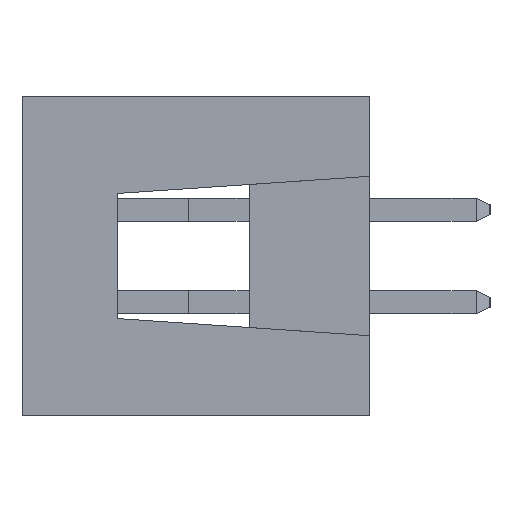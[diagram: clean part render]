
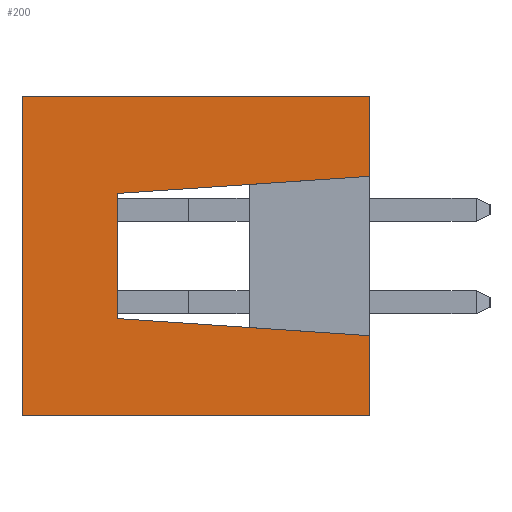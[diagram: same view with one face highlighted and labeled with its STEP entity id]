
A CAD part, left-side view. The second image highlights one B-rep face of the part: STEP entity #200.
In plain terms, the highlighted planar face has unit normal (-1, 0, 0).
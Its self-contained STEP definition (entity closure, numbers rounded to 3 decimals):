
#177 = CARTESIAN_POINT ( 'NONE',  ( -13.843, 9.525, 4.381 ) ) ;
#200 = ADVANCED_FACE ( 'NONE', ( #3579 ), #2412, .F. ) ;
#341 = ORIENTED_EDGE ( 'NONE', *, *, #3615, .F. ) ;
#731 = VECTOR ( 'NONE', #9970, 1000. ) ;
#1363 = DIRECTION ( 'NONE',  ( 0., -1., 0. ) ) ;
#2165 = CARTESIAN_POINT ( 'NONE',  ( -13.843, 0., 4.381 ) ) ;
#2198 = VERTEX_POINT ( 'NONE', #11802 ) ;
#2412 = PLANE ( 'NONE',  #3275 ) ;
#2467 = DIRECTION ( 'NONE',  ( 0., -0.998, -0.068 ) ) ;
#2509 = VERTEX_POINT ( 'NONE', #12281 ) ;
#2994 = CARTESIAN_POINT ( 'NONE',  ( -13.843, 9.525, -4.381 ) ) ;
#3126 = ORIENTED_EDGE ( 'NONE', *, *, #7719, .T. ) ;
#3274 = EDGE_CURVE ( 'NONE', #9021, #2198, #4803, .T. ) ;
#3275 = AXIS2_PLACEMENT_3D ( 'NONE', #14048, #11560, #8856 ) ;
#3579 = FACE_OUTER_BOUND ( 'NONE', #6775, .T. ) ;
#3615 = EDGE_CURVE ( 'NONE', #15794, #12529, #13261, .T. ) ;
#3977 = ORIENTED_EDGE ( 'NONE', *, *, #15456, .T. ) ;
#4408 = VECTOR ( 'NONE', #12532, 1000. ) ;
#4803 = LINE ( 'NONE', #9048, #12462 ) ;
#4827 = VERTEX_POINT ( 'NONE', #2994 ) ;
#5378 = EDGE_CURVE ( 'NONE', #4827, #11291, #8305, .T. ) ;
#5745 = LINE ( 'NONE', #8270, #6979 ) ;
#6042 = ORIENTED_EDGE ( 'NONE', *, *, #12193, .F. ) ;
#6091 = ORIENTED_EDGE ( 'NONE', *, *, #5378, .T. ) ;
#6168 = ORIENTED_EDGE ( 'NONE', *, *, #10776, .F. ) ;
#6179 = CARTESIAN_POINT ( 'NONE',  ( -13.843, 0., -4.381 ) ) ;
#6614 = LINE ( 'NONE', #2165, #4408 ) ;
#6775 = EDGE_LOOP ( 'NONE', ( #3977, #10786, #341, #6042, #3126, #11982, #6168, #6091 ) ) ;
#6979 = VECTOR ( 'NONE', #13817, 1000. ) ;
#7109 = VECTOR ( 'NONE', #9743, 1000. ) ;
#7719 = EDGE_CURVE ( 'NONE', #2509, #2198, #6614, .T. ) ;
#7938 = DIRECTION ( 'NONE',  ( 0., 0., 1. ) ) ;
#8257 = VECTOR ( 'NONE', #7938, 1000. ) ;
#8270 = CARTESIAN_POINT ( 'NONE',  ( -13.843, 0., 2.184 ) ) ;
#8305 = LINE ( 'NONE', #12258, #7109 ) ;
#8318 = CARTESIAN_POINT ( 'NONE',  ( -13.843, 0., -2.184 ) ) ;
#8631 = VECTOR ( 'NONE', #13472, 1000. ) ;
#8732 = CARTESIAN_POINT ( 'NONE',  ( -13.843, 0., 4.381 ) ) ;
#8856 = DIRECTION ( 'NONE',  ( 0., 0., -1. ) ) ;
#8942 = VECTOR ( 'NONE', #2467, 1000. ) ;
#9021 = VERTEX_POINT ( 'NONE', #12065 ) ;
#9048 = CARTESIAN_POINT ( 'NONE',  ( -13.843, 9.525, 4.381 ) ) ;
#9743 = DIRECTION ( 'NONE',  ( 0., -1., 0. ) ) ;
#9918 = CARTESIAN_POINT ( 'NONE',  ( -13.843, 6.909, -1.715 ) ) ;
#9970 = DIRECTION ( 'NONE',  ( 0., 0., 1. ) ) ;
#10363 = LINE ( 'NONE', #8732, #731 ) ;
#10776 = EDGE_CURVE ( 'NONE', #4827, #9021, #14303, .T. ) ;
#10786 = ORIENTED_EDGE ( 'NONE', *, *, #15784, .F. ) ;
#11291 = VERTEX_POINT ( 'NONE', #6179 ) ;
#11560 = DIRECTION ( 'NONE',  ( 1., 0., 0. ) ) ;
#11561 = CARTESIAN_POINT ( 'NONE',  ( -13.843, 6.909, 1.715 ) ) ;
#11802 = CARTESIAN_POINT ( 'NONE',  ( -13.843, 0., 4.381 ) ) ;
#11982 = ORIENTED_EDGE ( 'NONE', *, *, #3274, .F. ) ;
#12065 = CARTESIAN_POINT ( 'NONE',  ( -13.843, 9.525, 4.381 ) ) ;
#12193 = EDGE_CURVE ( 'NONE', #2509, #15794, #5745, .T. ) ;
#12258 = CARTESIAN_POINT ( 'NONE',  ( -13.843, 9.525, -4.381 ) ) ;
#12281 = CARTESIAN_POINT ( 'NONE',  ( -13.843, 0., 2.184 ) ) ;
#12338 = LINE ( 'NONE', #9918, #8942 ) ;
#12462 = VECTOR ( 'NONE', #1363, 1000. ) ;
#12529 = VERTEX_POINT ( 'NONE', #12854 ) ;
#12532 = DIRECTION ( 'NONE',  ( 0., 0., 1. ) ) ;
#12854 = CARTESIAN_POINT ( 'NONE',  ( -13.843, 6.909, -1.715 ) ) ;
#13261 = LINE ( 'NONE', #14790, #8631 ) ;
#13305 = VERTEX_POINT ( 'NONE', #8318 ) ;
#13472 = DIRECTION ( 'NONE',  ( 0., 0., -1. ) ) ;
#13817 = DIRECTION ( 'NONE',  ( 0., 0.998, -0.068 ) ) ;
#14048 = CARTESIAN_POINT ( 'NONE',  ( -13.843, 9.525, 4.381 ) ) ;
#14303 = LINE ( 'NONE', #177, #8257 ) ;
#14790 = CARTESIAN_POINT ( 'NONE',  ( -13.843, 6.909, 1.715 ) ) ;
#15456 = EDGE_CURVE ( 'NONE', #11291, #13305, #10363, .T. ) ;
#15784 = EDGE_CURVE ( 'NONE', #12529, #13305, #12338, .T. ) ;
#15794 = VERTEX_POINT ( 'NONE', #11561 ) ;
